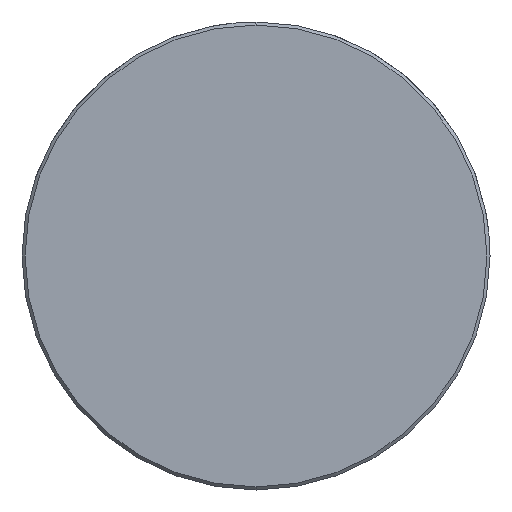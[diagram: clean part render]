
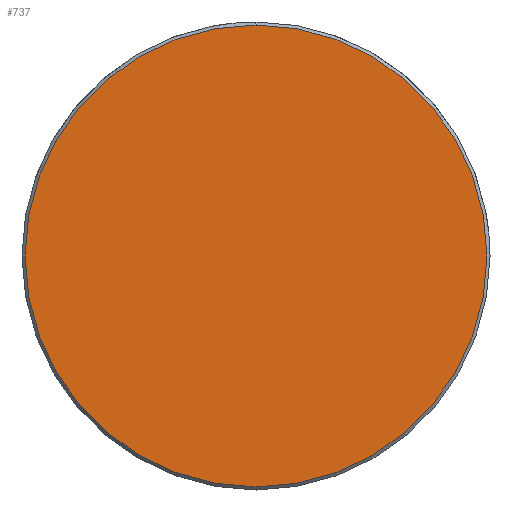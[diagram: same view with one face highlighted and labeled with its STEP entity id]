
A CAD part, left-side view. The second image highlights one B-rep face of the part: STEP entity #737.
In plain terms, the highlighted planar face has unit normal (-1, 0, 0).
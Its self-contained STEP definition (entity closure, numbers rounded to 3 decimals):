
#669=CARTESIAN_POINT('Vertex',(0.,0.,-22.2)) ;
#672=CARTESIAN_POINT('Axis2P3D Location',(0.,0.,0.)) ;
#676=CARTESIAN_POINT('Vertex',(0.,22.2,0.)) ;
#679=CARTESIAN_POINT('Axis2P3D Location',(0.,0.,0.)) ;
#683=CARTESIAN_POINT('Vertex',(0.,0.,22.2)) ;
#705=CARTESIAN_POINT('Axis2P3D Location',(0.,0.,0.)) ;
#709=CARTESIAN_POINT('Vertex',(0.,-22.2,0.)) ;
#712=CARTESIAN_POINT('Axis2P3D Location',(0.,0.,0.)) ;
#726=CARTESIAN_POINT('Axis2P3D Location',(0.,0.,0.)) ;
#673=DIRECTION('Axis2P3D Direction',(1.,0.,-0.)) ;
#680=DIRECTION('Axis2P3D Direction',(1.,0.,-0.)) ;
#706=DIRECTION('Axis2P3D Direction',(1.,0.,-0.)) ;
#713=DIRECTION('Axis2P3D Direction',(1.,0.,-0.)) ;
#727=DIRECTION('Axis2P3D Direction',(1.,0.,-0.)) ;
#728=DIRECTION('Axis2P3D XDirection',(-0.,0.,-1.)) ;
#674=AXIS2_PLACEMENT_3D('Circle Axis2P3D',#672,#673,$) ;
#681=AXIS2_PLACEMENT_3D('Circle Axis2P3D',#679,#680,$) ;
#707=AXIS2_PLACEMENT_3D('Circle Axis2P3D',#705,#706,$) ;
#714=AXIS2_PLACEMENT_3D('Circle Axis2P3D',#712,#713,$) ;
#729=AXIS2_PLACEMENT_3D('Plane Axis2P3D',#726,#727,#728) ;
#732=ORIENTED_EDGE('',*,*,#678,.F.) ;
#733=ORIENTED_EDGE('',*,*,#716,.F.) ;
#734=ORIENTED_EDGE('',*,*,#711,.F.) ;
#735=ORIENTED_EDGE('',*,*,#685,.F.) ;
#737=ADVANCED_FACE('549-40X400',(#736),#730,.F.) ;
#675=CIRCLE('generated circle',#674,22.2) ;
#682=CIRCLE('generated circle',#681,22.2) ;
#708=CIRCLE('generated circle',#707,22.2) ;
#715=CIRCLE('generated circle',#714,22.2) ;
#678=EDGE_CURVE('',#670,#677,#675,.T.) ;
#685=EDGE_CURVE('',#677,#684,#682,.T.) ;
#711=EDGE_CURVE('',#684,#710,#708,.T.) ;
#716=EDGE_CURVE('',#710,#670,#715,.T.) ;
#731=EDGE_LOOP('',(#732,#733,#734,#735)) ;
#736=FACE_OUTER_BOUND('',#731,.T.) ;
#730=PLANE('Plane',#729) ;
#670=VERTEX_POINT('',#669) ;
#677=VERTEX_POINT('',#676) ;
#684=VERTEX_POINT('',#683) ;
#710=VERTEX_POINT('',#709) ;
